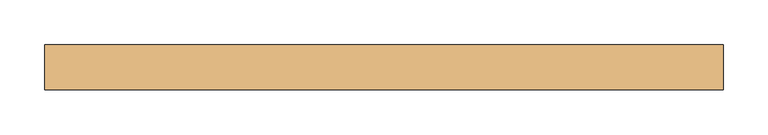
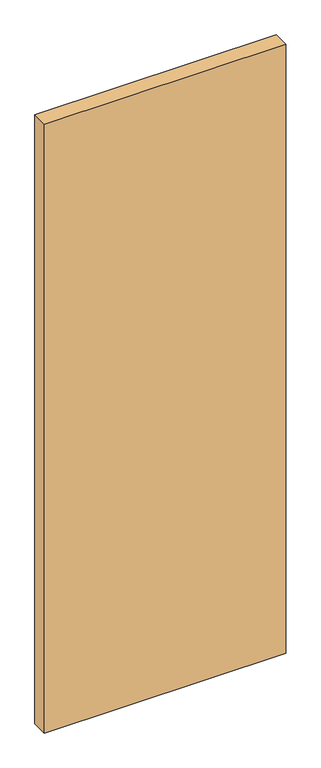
"""IFC4 building model written with IfcOpenShell, lengths in millimetres: door geometry."""

from ifc_helpers import new_model, si_unit, origin, origin_with_axes, place, context, project, spatial, polyline, outline, extrude, source, transform, mapped, element, save


def door_cfc43ca0(model_context):
    return source(origin(), model_context, "Body", "SweptSolid", [
        extrude(outline(polyline([(381.0, 31.55), (-381.0, 31.55), (-381.0, 82.55), (381.0, 82.55), (381.0, 31.55)])), origin_with_axes(), (0.0, 0.0, 1.0), 2032.0),
    ])


if __name__ == "__main__":
    model = new_model("IFC4")
    model_context = context("Model", 3, world=origin())
    ifc_project = project(units=[si_unit("LENGTHUNIT", "METRE", prefix="MILLI")], contexts=[model_context])
    site = spatial("IfcSite", under=ifc_project)
    building = spatial("IfcBuilding", under=site)
    placement = place(None, origin())
    door_shape = door_cfc43ca0(model_context)
    element("IfcDoor", 1, ObjectType="Planitar - Single Door_Flush Panel : 2'-6\" x 6'-8\" @45", at=placement, inside=building, context=model_context, shape_type="MappedRepresentation", body=[
        mapped(door_shape, transform((0.0, 0.0, 0.0), x_axis=(1.0, 0.0, 0.0), y_axis=(0.0, 1.0, 0.0), z_axis=(0.0, 0.0, 1.0))),
    ])
    save(model, "model.ifc")
